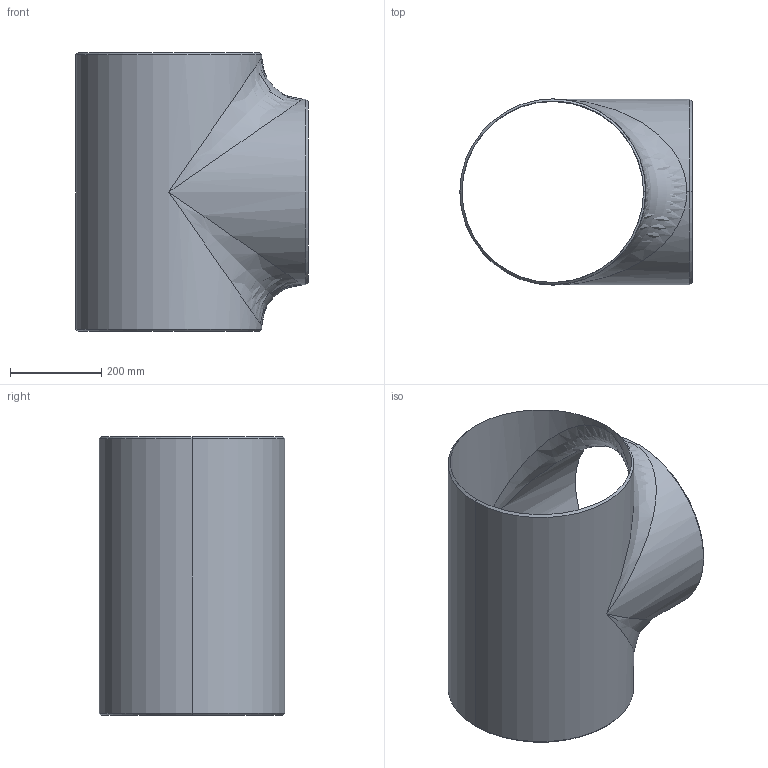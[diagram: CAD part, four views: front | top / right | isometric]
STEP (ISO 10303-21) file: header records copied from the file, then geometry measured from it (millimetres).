
FILE_DESCRIPTION (( 'STEP AP203' ), '1' );
FILE_NAME ('3D_R266_16x10S_173445350.STEP', '2024-08-23T11:25:06', ( '' ), ( '' ), 'SwSTEP 2.0', 'SolidWorks 2024', '' );
FILE_SCHEMA (( 'CONFIG_CONTROL_DESIGN' ));
Length unit declared in the file: millimetre
Products named in the file (1): 3D_R266_16x10S_173445350
Bounding box: 508 x 406.4 x 609.6 mm (x, y, z)
Volume: 3859894 mm3; surface area: 1640281.5 mm2
Topology: 1 solids, 1 shells, 21 faces, 58 edges, 30 vertices
Faces by surface type: cylinder 8, cone 6, bspline 4, plane 3
Entity records: 1627 total; most frequent: CARTESIAN_POINT 1106, ORIENTED_EDGE 100, DIRECTION 88, EDGE_CURVE 50, AXIS2_PLACEMENT_3D 36, VERTEX_POINT 30, EDGE_LOOP 24, ADVANCED_FACE 21
